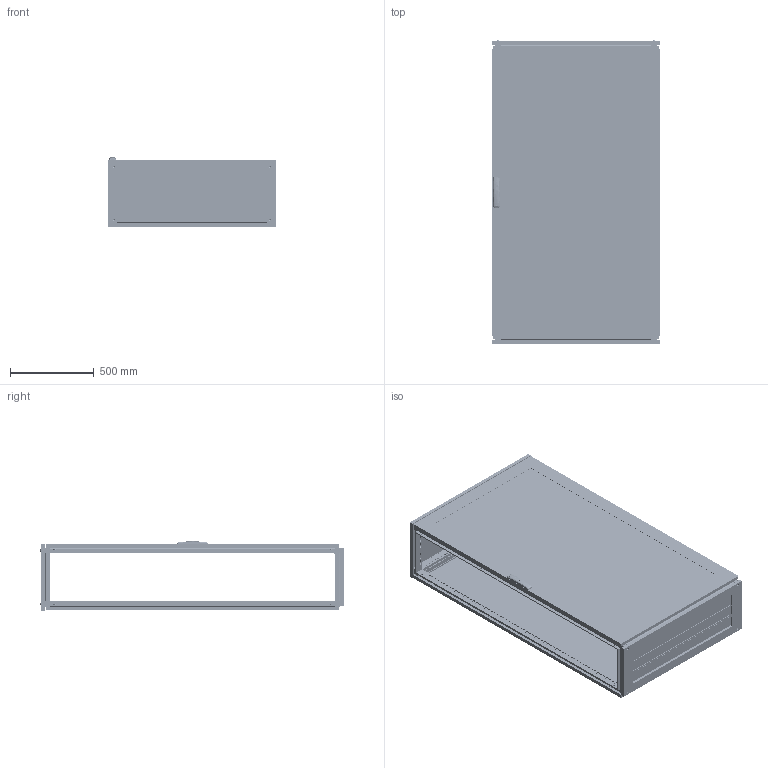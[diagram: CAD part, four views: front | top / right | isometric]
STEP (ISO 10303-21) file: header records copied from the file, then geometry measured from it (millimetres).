
FILE_DESCRIPTION (( 'STEP AP203' ), '1' );
FILE_NAME ('R5CQEN18104AX.STEP', '2025-05-07T11:52:55', ( '' ), ( '' ), 'SwSTEP 2.0', 'SolidWorks 2022', '' );
FILE_SCHEMA (( 'CONFIG_CONTROL_DESIGN' ));
Length unit declared in the file: millimetre
Products named in the file (66): RB.1728.00.00.0 simple_-03; 7 DIN 6799 Zinc; R5NKTB - Assem simple_H=1800 R5NKTB104; R5NKMN - Assem simple_R5NKMN18 (1000х400); Pressing stud FH-M6-12_M6x12mm; M6x10 DIN 7500 M Torx cl.5.8 Zinc_straight; RB.0562.01.00.0 СБ simple_-14; M6x15 Erickson cl.4,8 Zinc; RB.2702.00.00.0 simple; M8x12 AC00C476 cl.8,8 Zinc_thread; RB.2499.00.00.0 СБ simple_-24; Glass CPTE_1800x1000; RB.0528.04.01.0 simple; RB.0562.00.00.0 СБ simple_-14; R5NCPTE - Assem simple_R5NCPTE18100; RB.2969.00.00.0 СБ simple; M6x10 DIN 7500 E HX cl.5.8 Zinc_straight; RB.2357.00.00.0 simple_-07; TPA.08.0139.00.01.0 simple; RB.2528.00.00.0 simple_-04; RB.2680.00.00.0 СБ simple; 7 DIN 6799 Zinc simple; RB.2755.00.00.0 СБ simple_-24; RB.2052.01.00.0 СБ simple_-19; AC00C446-R; RB.2680.00.02.0 simple; M6x10 DIN 912 HX cl.8,8 Zinc_straight; RB.2457.00.00.0 СБ simple_-24; M8x12 AC00C476 cl.8,8 Zinc_stright; PF 5x10 KTB simple_1000x400; M6 MGR-MKO-0625 simple_Thread; Square cap 20x20 simple; PF 7x14 CRE simple_1800x1000; RB.2685.00.00.0 simple; R5CQEN18104AX; M12x16 ISO 7380-1 HX cl.4,8 Zinc_straight; TPA.08.0139.00.03.0; RB.0528.00.01.0 simple_-04; TPA.08.0084.00.00.0 simple; RB.2052.00.00.0 СБ simple_-19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
Assembly tree (176 placements, depth 5):
  R5CQEN18104AX
    R5NCPTE - Assem simple_R5NCPTE18100
      RB.0562.00.00.0 СБ simple_-14
        RB.0562.01.00.0 СБ simple_-14
          RB.0562.01.01.0 simple_-14
          М6х12 A5100231_straight  x9
          RB.2702.00.00.0 simple  x4
          PF 7,5x15 CPE simple_1800x1000
          Glass CPTE_1800x1000
          Glue CPTE simple_1800x1000
        Square cap 20x20 simple  x2
        M6x15 Erickson cl.4,8 Zinc  x3
        RB.0528.00.01.0 simple_-04  x2
        ATOS Traction guide ILY03.35  x4
        RB.2357.00.00.0 simple_-07
        RB.2680.00.00.0 СБ simple
          TPA.08.0139.00.01.0 simple
          RB.2680.00.01.0 simple
          RB.2680.00.02.0 simple  x2
        TPA.08.0139.00.03.0  x2
        M6 DIN 985 cl.6,0 Zinc_straight  x4
        4,0x16 F Torx Zinc (ART 88200)_thread  x2
        RB.0528.04.00.0 СБ simple  x2
          RB.0528.04.01.0 simple
          Pressing stud FH-M6-12_M6x12mm
      M6x10 DIN 912 HX cl.8,8 Zinc_straight  x8
      4.8x13 DIN 7981 PH Zinc_straight
      7 DIN 6799 Zinc simple  x4
      RB.2968.00.00.0 simple  x4
      RB.2969.00.00.0 СБ simple  x4
        RB.2969.00.01.0 simple
        Pin 4x16 DIN 7 AISI 303 (A1) simple
        M6 MGR-MKO-0625 simple_Thread
      AC00C446-R
      RB.2696.00.00.0 simple  x4
      7 DIN 6799 Zinc  x4
    R5NCRE-Assem simple_R5NCRE18100
      RB.2052.00.00.0 СБ simple_-19
        RB.2052.01.00.0 СБ simple_-19
          RB.0054.01.01.0 simple_-19
          М6х12 A5100231_straight  x4
        PF 7x14 CRE simple_1800x1000
      RB.2172.00.00.1 simple  x8
      M6x10 DIN 7500 E HX cl.5.8 Zinc_straight  x8
      M6x10 DIN 7500 M Torx cl.5.8 Zinc_straight  x8
    R5NKMN - Assem simple_R5NKMN18 (1000х400)
      RB.2528.00.00.0 simple_-04  x4
    R5NKTB - Assem simple_H=1800 R5NKTB104
      RB.2499.00.00.0 СБ simple_-24
        RB.2499.01.00.0 СБ simple_-23
          RB.1633.00.01.0 simple_-04  x2
          RB.1633.00.02.0 simple_default  x2
          PF 5x10 KTB simple_1000x400
        RB.2457.00.00.0 СБ simple_-24
          RB.2455.00.00.0 simple_-04  x2
          RB.2456.00.00.0 simple  x2
          TPA.08.0084.00.00.0 simple  x2
          TPA.08.0083.00.00.0 simple  x2
          M8x12 AC00C476 cl.8,8 Zinc_stright  x4
        RB.1728.00.00.0 simple_-03  x3
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Bounding box: 1000 x 1813.3 x 414.74 mm (x, y, z)
Volume: 18906741.5 mm3; surface area: 15776712.6 mm2
Topology: 179 solids, 195 shells, 22876 faces, 64724 edges, 42562 vertices
Faces by surface type: plane 12337, cylinder 8476, cone 1226, bspline 435, torus 368, sphere 34
Entity records: 226961 total; most frequent: CARTESIAN_POINT 55833, ORIENTED_EDGE 33912, DIRECTION 32480, EDGE_CURVE 16982, VERTEX_POINT 11235, AXIS2_PLACEMENT_3D 10957, VECTOR 10566, LINE 10566
